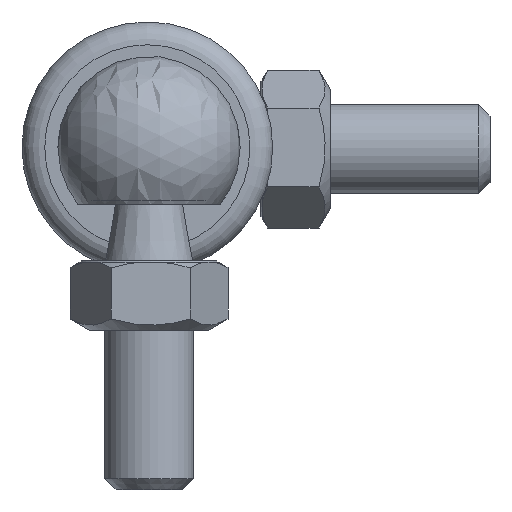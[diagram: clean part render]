
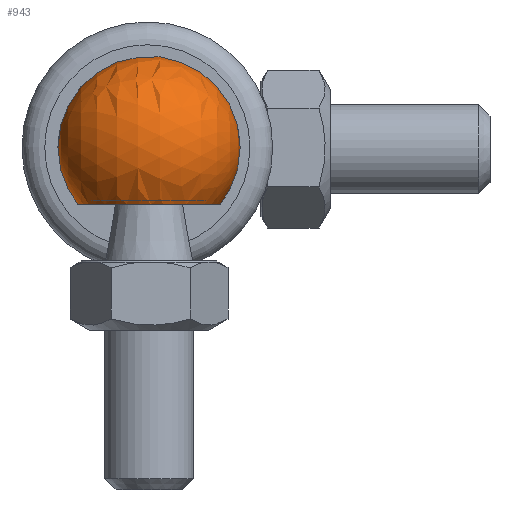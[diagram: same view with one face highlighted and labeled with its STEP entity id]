
A CAD part, left-side view. The second image highlights one B-rep face of the part: STEP entity #943.
In plain terms, the highlighted spherical face has radius 8 mm.
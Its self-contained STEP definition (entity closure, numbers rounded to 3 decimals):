
#57=B_SPLINE_CURVE_WITH_KNOTS('',3,(#1551,#1552,#1553,#1554,#1555,#1556,
#1557,#1558,#1559,#1560,#1561,#1562,#1563,#1564,#1565,#1566,#1567,#1568,
#1569,#1570,#1571,#1572,#1573,#1574,#1575,#1576,#1577,#1578,#1579,#1580),
 .UNSPECIFIED.,.F.,.F.,(4,2,2,2,2,2,2,2,2,2,2,2,2,2,4),(0.226,
0.414,0.622,0.829,1.036,
1.243,1.45,1.658,1.865,2.072,
2.279,2.487,2.694,2.901,3.089),
 .UNSPECIFIED.);
#60=SPHERICAL_SURFACE('',#1064,8.);
#193=FACE_BOUND('',#351,.T.);
#351=EDGE_LOOP('',(#713,#714));
#419=CIRCLE('',#1048,6.245);
#479=VERTEX_POINT('',#1538);
#480=VERTEX_POINT('',#1540);
#559=EDGE_CURVE('',#480,#479,#419,.T.);
#564=EDGE_CURVE('',#479,#480,#57,.T.);
#713=ORIENTED_EDGE('',*,*,#564,.T.);
#714=ORIENTED_EDGE('',*,*,#559,.T.);
#943=ADVANCED_FACE('',(#193),#60,.T.);
#1048=AXIS2_PLACEMENT_3D('',#1541,#1266,#1267);
#1064=AXIS2_PLACEMENT_3D('',#1596,#1300,#1301);
#1266=DIRECTION('center_axis',(-1.,0.,0.));
#1267=DIRECTION('ref_axis',(0.,0.,-1.));
#1300=DIRECTION('center_axis',(0.,0.,1.));
#1301=DIRECTION('ref_axis',(1.,0.,0.));
#1538=CARTESIAN_POINT('',(5.,-5.866,-10.141));
#1540=CARTESIAN_POINT('',(5.,-5.748,-5.559));
#1541=CARTESIAN_POINT('Origin',(5.,0.,-8.));
#1551=CARTESIAN_POINT('Ctrl Pts',(5.,-5.866,-10.141));
#1552=CARTESIAN_POINT('Ctrl Pts',(4.723,-5.882,-10.746));
#1553=CARTESIAN_POINT('Ctrl Pts',(4.332,-5.896,-11.296));
#1554=CARTESIAN_POINT('Ctrl Pts',(3.401,-5.92,-12.228));
#1555=CARTESIAN_POINT('Ctrl Pts',(2.782,-5.93,-12.651));
#1556=CARTESIAN_POINT('Ctrl Pts',(1.427,-5.944,-13.212));
#1557=CARTESIAN_POINT('Ctrl Pts',(0.691,-5.948,-13.35));
#1558=CARTESIAN_POINT('Ctrl Pts',(-0.691,-5.948,
-13.35));
#1559=CARTESIAN_POINT('Ctrl Pts',(-1.427,-5.944,-13.212));
#1560=CARTESIAN_POINT('Ctrl Pts',(-2.782,-5.93,-12.651));
#1561=CARTESIAN_POINT('Ctrl Pts',(-3.401,-5.92,-12.228));
#1562=CARTESIAN_POINT('Ctrl Pts',(-4.377,-5.895,-11.251));
#1563=CARTESIAN_POINT('Ctrl Pts',(-4.801,-5.879,-10.632));
#1564=CARTESIAN_POINT('Ctrl Pts',(-5.362,-5.844,-9.277));
#1565=CARTESIAN_POINT('Ctrl Pts',(-5.5,-5.825,-8.541));
#1566=CARTESIAN_POINT('Ctrl Pts',(-5.5,-5.79,-7.159));
#1567=CARTESIAN_POINT('Ctrl Pts',(-5.362,-5.771,-6.423));
#1568=CARTESIAN_POINT('Ctrl Pts',(-4.801,-5.735,-5.068));
#1569=CARTESIAN_POINT('Ctrl Pts',(-4.377,-5.719,-4.449));
#1570=CARTESIAN_POINT('Ctrl Pts',(-3.401,-5.693,-3.472));
#1571=CARTESIAN_POINT('Ctrl Pts',(-2.782,-5.682,-3.049));
#1572=CARTESIAN_POINT('Ctrl Pts',(-1.427,-5.667,-2.488));
#1573=CARTESIAN_POINT('Ctrl Pts',(-0.691,-5.664,
-2.35));
#1574=CARTESIAN_POINT('Ctrl Pts',(0.691,-5.664,-2.35));
#1575=CARTESIAN_POINT('Ctrl Pts',(1.427,-5.667,-2.488));
#1576=CARTESIAN_POINT('Ctrl Pts',(2.782,-5.682,-3.049));
#1577=CARTESIAN_POINT('Ctrl Pts',(3.401,-5.693,-3.472));
#1578=CARTESIAN_POINT('Ctrl Pts',(4.332,-5.718,-4.404));
#1579=CARTESIAN_POINT('Ctrl Pts',(4.723,-5.732,-4.954));
#1580=CARTESIAN_POINT('Ctrl Pts',(5.,-5.748,-5.559));
#1596=CARTESIAN_POINT('Origin',(0.,0.,-8.));
